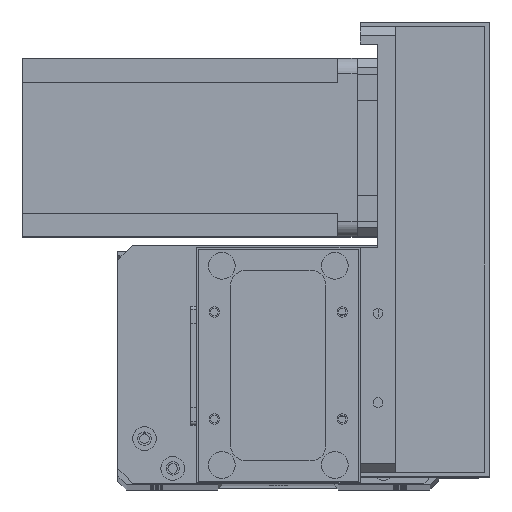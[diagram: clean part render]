
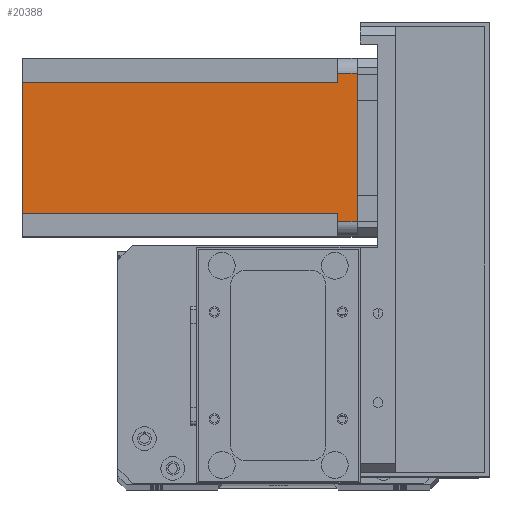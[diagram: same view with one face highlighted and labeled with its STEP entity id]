
A CAD part, top view. The second image highlights one B-rep face of the part: STEP entity #20388.
In plain terms, the highlighted planar face has unit normal (0, 0, 1) as drawn and (0, 1, 0) by its records, which use the part's own axes.
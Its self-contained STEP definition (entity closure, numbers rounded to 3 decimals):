
#777 = LINE ( 'NONE', #5708, #29819 ) ;
#1590 = CARTESIAN_POINT ( 'NONE',  ( 55., 60., 0. ) ) ;
#1627 = CARTESIAN_POINT ( 'NONE',  ( 52., 60., -112.5 ) ) ;
#2464 = CARTESIAN_POINT ( 'NONE',  ( 8., 60., -6.5 ) ) ;
#2659 = VECTOR ( 'NONE', #14222, 1000. ) ;
#3702 = DIRECTION ( 'NONE',  ( -1., 0., 0. ) ) ;
#3786 = CARTESIAN_POINT ( 'NONE',  ( 52., 60., -112.5 ) ) ;
#4204 = CARTESIAN_POINT ( 'NONE',  ( 52., 60., -6.5 ) ) ;
#4881 = ORIENTED_EDGE ( 'NONE', *, *, #28185, .F. ) ;
#4990 = ORIENTED_EDGE ( 'NONE', *, *, #20700, .T. ) ;
#5698 = VERTEX_POINT ( 'NONE', #2464 ) ;
#5708 = CARTESIAN_POINT ( 'NONE',  ( 0., 60., 0. ) ) ;
#5950 = ORIENTED_EDGE ( 'NONE', *, *, #8793, .F. ) ;
#6167 = LINE ( 'NONE', #15894, #6890 ) ;
#6890 = VECTOR ( 'NONE', #13535, 1000. ) ;
#6961 = ORIENTED_EDGE ( 'NONE', *, *, #13746, .T. ) ;
#7181 = CARTESIAN_POINT ( 'NONE',  ( 5., 60., -6.5 ) ) ;
#7378 = VECTOR ( 'NONE', #27401, 1000. ) ;
#7753 = EDGE_LOOP ( 'NONE', ( #16713, #6961, #5950, #14996, #4990, #4881, #27190, #12640 ) ) ;
#8127 = LINE ( 'NONE', #1627, #7378 ) ;
#8137 = VERTEX_POINT ( 'NONE', #1590 ) ;
#8793 = EDGE_CURVE ( 'NONE', #10338, #23018, #28648, .T. ) ;
#8887 = FACE_OUTER_BOUND ( 'NONE', #7753, .T. ) ;
#9714 = EDGE_CURVE ( 'NONE', #5698, #15798, #9842, .T. ) ;
#9842 = LINE ( 'NONE', #17797, #16113 ) ;
#10338 = VERTEX_POINT ( 'NONE', #26988 ) ;
#11621 = DIRECTION ( 'NONE',  ( 0., 0., -1. ) ) ;
#12640 = ORIENTED_EDGE ( 'NONE', *, *, #17255, .T. ) ;
#13535 = DIRECTION ( 'NONE',  ( 0., 0., 1. ) ) ;
#13746 = EDGE_CURVE ( 'NONE', #8137, #23018, #20699, .T. ) ;
#14052 = LINE ( 'NONE', #17216, #21003 ) ;
#14222 = DIRECTION ( 'NONE',  ( 0., 0., -1. ) ) ;
#14530 = VERTEX_POINT ( 'NONE', #24228 ) ;
#14755 = EDGE_CURVE ( 'NONE', #16105, #10338, #8127, .T. ) ;
#14996 = ORIENTED_EDGE ( 'NONE', *, *, #14755, .F. ) ;
#15798 = VERTEX_POINT ( 'NONE', #7181 ) ;
#15894 = CARTESIAN_POINT ( 'NONE',  ( 5., 60., -112.5 ) ) ;
#15947 = DIRECTION ( 'NONE',  ( 1., 0., 0. ) ) ;
#16105 = VERTEX_POINT ( 'NONE', #3786 ) ;
#16107 = DIRECTION ( 'NONE',  ( 0., 0., 1. ) ) ;
#16113 = VECTOR ( 'NONE', #3702, 1000. ) ;
#16516 = AXIS2_PLACEMENT_3D ( 'NONE', #27806, #30165, #16107 ) ;
#16713 = ORIENTED_EDGE ( 'NONE', *, *, #20751, .F. ) ;
#16981 = VERTEX_POINT ( 'NONE', #21827 ) ;
#17216 = CARTESIAN_POINT ( 'NONE',  ( 0., 60., -112.5 ) ) ;
#17255 = EDGE_CURVE ( 'NONE', #15798, #14530, #6167, .T. ) ;
#17797 = CARTESIAN_POINT ( 'NONE',  ( 8., 60., -6.5 ) ) ;
#18699 = CARTESIAN_POINT ( 'NONE',  ( 8., 60., -112.5 ) ) ;
#19081 = LINE ( 'NONE', #18699, #25339 ) ;
#19583 = DIRECTION ( 'NONE',  ( -1., 0., 0. ) ) ;
#19926 = CARTESIAN_POINT ( 'NONE',  ( 55., 60., -6.5 ) ) ;
#20388 = ADVANCED_FACE ( 'NONE', ( #8887 ), #25465, .T. ) ;
#20699 = LINE ( 'NONE', #28273, #2659 ) ;
#20700 = EDGE_CURVE ( 'NONE', #16105, #16981, #14052, .T. ) ;
#20751 = EDGE_CURVE ( 'NONE', #8137, #14530, #777, .T. ) ;
#21003 = VECTOR ( 'NONE', #19583, 1000. ) ;
#21827 = CARTESIAN_POINT ( 'NONE',  ( 8., 60., -112.5 ) ) ;
#23018 = VERTEX_POINT ( 'NONE', #19926 ) ;
#24228 = CARTESIAN_POINT ( 'NONE',  ( 5., 60., 0. ) ) ;
#25339 = VECTOR ( 'NONE', #11621, 1000. ) ;
#25465 = PLANE ( 'NONE',  #16516 ) ;
#26863 = DIRECTION ( 'NONE',  ( -1., 0., 0. ) ) ;
#26988 = CARTESIAN_POINT ( 'NONE',  ( 52., 60., -6.5 ) ) ;
#27190 = ORIENTED_EDGE ( 'NONE', *, *, #9714, .T. ) ;
#27401 = DIRECTION ( 'NONE',  ( 0., 0., 1. ) ) ;
#27806 = CARTESIAN_POINT ( 'NONE',  ( 0., 60., -112.5 ) ) ;
#27915 = VECTOR ( 'NONE', #15947, 1000. ) ;
#28185 = EDGE_CURVE ( 'NONE', #5698, #16981, #19081, .T. ) ;
#28273 = CARTESIAN_POINT ( 'NONE',  ( 55., 60., -112.5 ) ) ;
#28648 = LINE ( 'NONE', #4204, #27915 ) ;
#29819 = VECTOR ( 'NONE', #26863, 1000. ) ;
#30165 = DIRECTION ( 'NONE',  ( 0., 1., 0. ) ) ;
